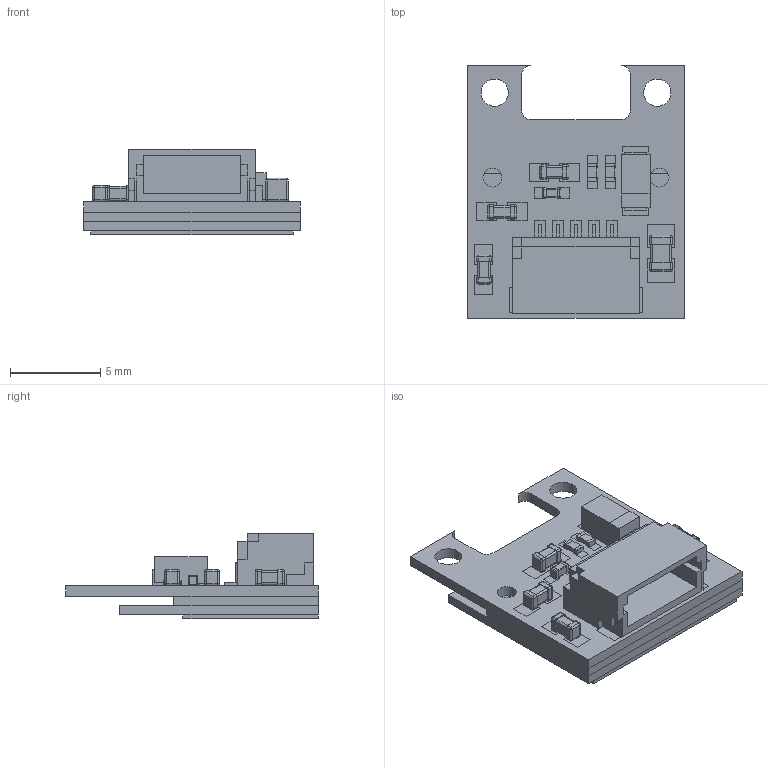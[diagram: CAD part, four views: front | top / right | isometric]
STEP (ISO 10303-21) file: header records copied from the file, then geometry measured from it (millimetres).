
FILE_DESCRIPTION(('FreeCAD Model'),'2;1');
FILE_NAME('/home/devy/MEGA/TinyCircuits/Assets/BoardsANDBoardModels_2/Wirelings/TinyCircuits-Wireling-0.42-Screen-OLED-AST1042/cad/Wireling_042OLED_AST1042_REV1-STEP.step','2020-08-11T15:22:46',('Author'),(''), 'Open CASCADE STEP processor 7.4','FreeCAD','Unknown');
FILE_SCHEMA(('AUTOMOTIVE_DESIGN { 1 0 10303 214 1 1 1 1 }'));
Products named in the file (1): Wireling_042OLED_AST1042_REV1-STEP
Bounding box: 12 x 14 x 4.72 mm (x, y, z)
Volume: 518.4 mm3; surface area: 1782.8 mm2
Topology: 131 solids, 131 shells, 1256 faces, 4015 edges, 4096 vertices
Faces by surface type: plane 952, cylinder 224, sphere 80
Full cylindrical faces by diameter (mm): 1.052 x4, 1.502 x4
Entity records: 98296 total; most frequent: CARTESIAN_POINT 17494, DIRECTION 12067, LINE 7541, VECTOR 7541, ORIENTED_EDGE 5438, PCURVE 5438, DEFINITIONAL_REPRESENTATION 5438, EDGE_CURVE 2719
